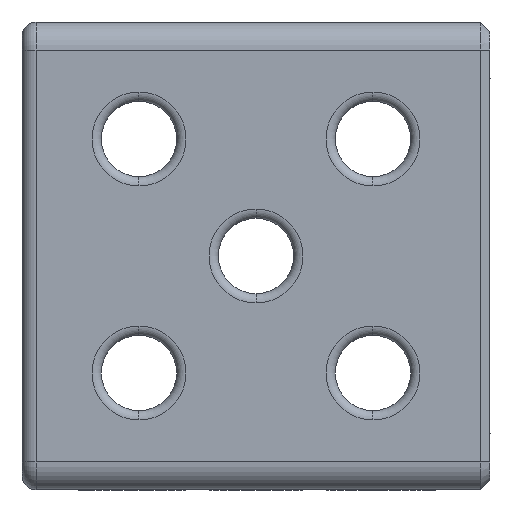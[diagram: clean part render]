
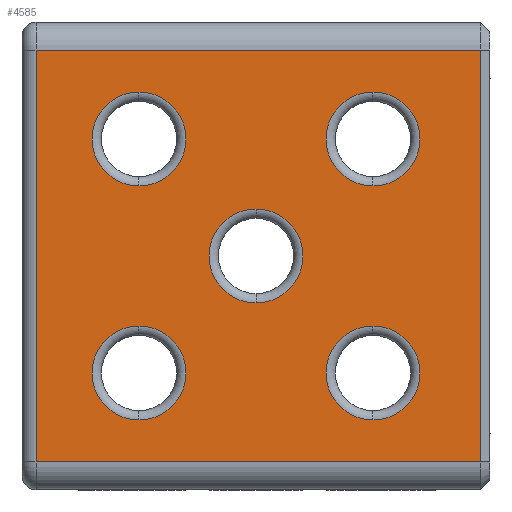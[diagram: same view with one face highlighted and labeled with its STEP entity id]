
A CAD part, left-side view. The second image highlights one B-rep face of the part: STEP entity #4585.
In plain terms, the highlighted planar face has unit normal (-1, 0, 0).
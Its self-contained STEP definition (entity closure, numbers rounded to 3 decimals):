
#45 = CIRCLE ( 'NONE', #1481, 10.04 ) ;
#543 = DIRECTION ( 'NONE',  ( 0., 0., 1. ) ) ;
#637 = VERTEX_POINT ( 'NONE', #7797 ) ;
#757 = EDGE_LOOP ( 'NONE', ( #11821, #11031 ) ) ;
#769 = CARTESIAN_POINT ( 'NONE',  ( -250., -12., 44. ) ) ;
#1057 = AXIS2_PLACEMENT_3D ( 'NONE', #5884, #15588, #7283 ) ;
#1078 = AXIS2_PLACEMENT_3D ( 'NONE', #3412, #13107, #4801 ) ;
#1367 = DIRECTION ( 'NONE',  ( 0., 0., 1. ) ) ;
#1481 = AXIS2_PLACEMENT_3D ( 'NONE', #4009, #13694, #5388 ) ;
#1667 = ORIENTED_EDGE ( 'NONE', *, *, #11466, .T. ) ;
#1727 = EDGE_CURVE ( 'NONE', #17022, #16102, #4016, .T. ) ;
#1796 = EDGE_CURVE ( 'NONE', #4720, #2927, #9651, .T. ) ;
#1896 = LINE ( 'NONE', #15461, #8833 ) ;
#1927 = CARTESIAN_POINT ( 'NONE',  ( -250., -75., 25. ) ) ;
#1997 = DIRECTION ( 'NONE',  ( -1., 0., 0. ) ) ;
#2068 = DIRECTION ( 'NONE',  ( -1., 0., 0. ) ) ;
#2155 = FACE_BOUND ( 'NONE', #10540, .T. ) ;
#2212 = EDGE_CURVE ( 'NONE', #10243, #2221, #17849, .T. ) ;
#2221 = VERTEX_POINT ( 'NONE', #7431 ) ;
#2269 = VECTOR ( 'NONE', #3454, 1000. ) ;
#2635 = CARTESIAN_POINT ( 'NONE',  ( -250., -50., 10.04 ) ) ;
#2927 = VERTEX_POINT ( 'NONE', #3922 ) ;
#3315 = DIRECTION ( 'NONE',  ( 0., 0., -1. ) ) ;
#3412 = CARTESIAN_POINT ( 'NONE',  ( -250., -75., -25. ) ) ;
#3454 = DIRECTION ( 'NONE',  ( 0., -1., 0. ) ) ;
#3495 = EDGE_CURVE ( 'NONE', #3676, #4651, #6094, .T. ) ;
#3676 = VERTEX_POINT ( 'NONE', #10775 ) ;
#3922 = CARTESIAN_POINT ( 'NONE',  ( -250., -98., -44. ) ) ;
#3960 = CARTESIAN_POINT ( 'NONE',  ( -250., -25., 25. ) ) ;
#4009 = CARTESIAN_POINT ( 'NONE',  ( -250., -25., -25. ) ) ;
#4016 = CIRCLE ( 'NONE', #8256, 10.04 ) ;
#4257 = CARTESIAN_POINT ( 'NONE',  ( -250., -25., -35.04 ) ) ;
#4389 = VERTEX_POINT ( 'NONE', #4257 ) ;
#4585 = ADVANCED_FACE ( 'NONE', ( #17751, #5832, #16877, #2155, #16461, #12784 ), #10315, .T. ) ;
#4602 = EDGE_CURVE ( 'NONE', #4651, #3676, #5407, .T. ) ;
#4651 = VERTEX_POINT ( 'NONE', #15976 ) ;
#4720 = VERTEX_POINT ( 'NONE', #11993 ) ;
#4801 = DIRECTION ( 'NONE',  ( 0., 0., 1. ) ) ;
#4886 = EDGE_CURVE ( 'NONE', #2221, #10243, #15795, .T. ) ;
#4893 = VECTOR ( 'NONE', #15791, 1000. ) ;
#4902 = CARTESIAN_POINT ( 'NONE',  ( -250., -25., -14.96 ) ) ;
#5350 = DIRECTION ( 'NONE',  ( 0., 0., -1. ) ) ;
#5388 = DIRECTION ( 'NONE',  ( 0., 0., 1. ) ) ;
#5407 = CIRCLE ( 'NONE', #16742, 10.04 ) ;
#5827 = CARTESIAN_POINT ( 'NONE',  ( -250., -75., -14.96 ) ) ;
#5832 = FACE_BOUND ( 'NONE', #13780, .T. ) ;
#5884 = CARTESIAN_POINT ( 'NONE',  ( -250., -50., 0. ) ) ;
#5943 = CARTESIAN_POINT ( 'NONE',  ( -250., -25., -25. ) ) ;
#6094 = CIRCLE ( 'NONE', #7339, 10.04 ) ;
#6176 = EDGE_LOOP ( 'NONE', ( #14268, #7006 ) ) ;
#6192 = ORIENTED_EDGE ( 'NONE', *, *, #4602, .F. ) ;
#6273 = ORIENTED_EDGE ( 'NONE', *, *, #8696, .T. ) ;
#6589 = CIRCLE ( 'NONE', #8442, 10.04 ) ;
#6878 = EDGE_CURVE ( 'NONE', #637, #4720, #8590, .T. ) ;
#7006 = ORIENTED_EDGE ( 'NONE', *, *, #4886, .F. ) ;
#7046 = CARTESIAN_POINT ( 'NONE',  ( -250., -75., 14.96 ) ) ;
#7244 = VERTEX_POINT ( 'NONE', #12517 ) ;
#7258 = EDGE_LOOP ( 'NONE', ( #8969, #15873, #11926, #14618 ) ) ;
#7283 = DIRECTION ( 'NONE',  ( 0., 0., 1. ) ) ;
#7339 = AXIS2_PLACEMENT_3D ( 'NONE', #3960, #13651, #5350 ) ;
#7342 = DIRECTION ( 'NONE',  ( 0., 0., 1. ) ) ;
#7386 = VECTOR ( 'NONE', #10484, 1000. ) ;
#7431 = CARTESIAN_POINT ( 'NONE',  ( -250., -75., 35.04 ) ) ;
#7797 = CARTESIAN_POINT ( 'NONE',  ( -250., -3., 44. ) ) ;
#7823 = LINE ( 'NONE', #769, #7386 ) ;
#8019 = CARTESIAN_POINT ( 'NONE',  ( -250., -75., 25. ) ) ;
#8172 = EDGE_CURVE ( 'NONE', #7244, #13083, #6589, .T. ) ;
#8256 = AXIS2_PLACEMENT_3D ( 'NONE', #17124, #8854, #543 ) ;
#8442 = AXIS2_PLACEMENT_3D ( 'NONE', #17963, #9682, #1367 ) ;
#8492 = AXIS2_PLACEMENT_3D ( 'NONE', #1927, #11618, #3315 ) ;
#8590 = LINE ( 'NONE', #13008, #4893 ) ;
#8696 = EDGE_CURVE ( 'NONE', #4389, #13816, #12217, .T. ) ;
#8833 = VECTOR ( 'NONE', #11351, 1000. ) ;
#8854 = DIRECTION ( 'NONE',  ( 1., 0., 0. ) ) ;
#8856 = CARTESIAN_POINT ( 'NONE',  ( -250., -12., 0. ) ) ;
#8969 = ORIENTED_EDGE ( 'NONE', *, *, #11070, .F. ) ;
#9046 = EDGE_CURVE ( 'NONE', #13816, #4389, #45, .T. ) ;
#9420 = DIRECTION ( 'NONE',  ( 0., 0., -1. ) ) ;
#9651 = LINE ( 'NONE', #10368, #2269 ) ;
#9682 = DIRECTION ( 'NONE',  ( 1., 0., 0. ) ) ;
#10243 = VERTEX_POINT ( 'NONE', #7046 ) ;
#10315 = PLANE ( 'NONE',  #15821 ) ;
#10352 = VERTEX_POINT ( 'NONE', #11423 ) ;
#10368 = CARTESIAN_POINT ( 'NONE',  ( -250., -12., -44. ) ) ;
#10371 = CARTESIAN_POINT ( 'NONE',  ( -250., -25., 25. ) ) ;
#10484 = DIRECTION ( 'NONE',  ( 0., -1., 0. ) ) ;
#10540 = EDGE_LOOP ( 'NONE', ( #17118, #6273 ) ) ;
#10687 = EDGE_LOOP ( 'NONE', ( #6192, #17839 ) ) ;
#10775 = CARTESIAN_POINT ( 'NONE',  ( -250., -25., 35.04 ) ) ;
#11031 = ORIENTED_EDGE ( 'NONE', *, *, #8172, .T. ) ;
#11070 = EDGE_CURVE ( 'NONE', #637, #10352, #7823, .T. ) ;
#11351 = DIRECTION ( 'NONE',  ( 0., 0., 1. ) ) ;
#11423 = CARTESIAN_POINT ( 'NONE',  ( -250., -98., 44. ) ) ;
#11466 = EDGE_CURVE ( 'NONE', #16102, #17022, #11930, .T. ) ;
#11618 = DIRECTION ( 'NONE',  ( -1., 0., 0. ) ) ;
#11699 = DIRECTION ( 'NONE',  ( 0., 0., 1. ) ) ;
#11750 = DIRECTION ( 'NONE',  ( 0., 0., -1. ) ) ;
#11821 = ORIENTED_EDGE ( 'NONE', *, *, #13207, .T. ) ;
#11926 = ORIENTED_EDGE ( 'NONE', *, *, #1796, .T. ) ;
#11930 = CIRCLE ( 'NONE', #1057, 10.04 ) ;
#11993 = CARTESIAN_POINT ( 'NONE',  ( -250., -3., -44. ) ) ;
#12217 = CIRCLE ( 'NONE', #13313, 10.04 ) ;
#12517 = CARTESIAN_POINT ( 'NONE',  ( -250., -75., -35.04 ) ) ;
#12784 = FACE_BOUND ( 'NONE', #10687, .T. ) ;
#12804 = ORIENTED_EDGE ( 'NONE', *, *, #1727, .T. ) ;
#13008 = CARTESIAN_POINT ( 'NONE',  ( -250., -3., 0. ) ) ;
#13083 = VERTEX_POINT ( 'NONE', #5827 ) ;
#13107 = DIRECTION ( 'NONE',  ( 1., 0., 0. ) ) ;
#13207 = EDGE_CURVE ( 'NONE', #13083, #7244, #14905, .T. ) ;
#13313 = AXIS2_PLACEMENT_3D ( 'NONE', #5943, #15642, #7342 ) ;
#13427 = CARTESIAN_POINT ( 'NONE',  ( -250., -50., -10.04 ) ) ;
#13651 = DIRECTION ( 'NONE',  ( -1., 0., 0. ) ) ;
#13694 = DIRECTION ( 'NONE',  ( 1., 0., 0. ) ) ;
#13780 = EDGE_LOOP ( 'NONE', ( #1667, #12804 ) ) ;
#13816 = VERTEX_POINT ( 'NONE', #4902 ) ;
#14268 = ORIENTED_EDGE ( 'NONE', *, *, #2212, .F. ) ;
#14618 = ORIENTED_EDGE ( 'NONE', *, *, #14691, .T. ) ;
#14691 = EDGE_CURVE ( 'NONE', #2927, #10352, #1896, .T. ) ;
#14905 = CIRCLE ( 'NONE', #1078, 10.04 ) ;
#15461 = CARTESIAN_POINT ( 'NONE',  ( -250., -98., 0. ) ) ;
#15496 = AXIS2_PLACEMENT_3D ( 'NONE', #8019, #17697, #9420 ) ;
#15588 = DIRECTION ( 'NONE',  ( 1., 0., 0. ) ) ;
#15642 = DIRECTION ( 'NONE',  ( 1., 0., 0. ) ) ;
#15791 = DIRECTION ( 'NONE',  ( 0., 0., -1. ) ) ;
#15795 = CIRCLE ( 'NONE', #15496, 10.04 ) ;
#15821 = AXIS2_PLACEMENT_3D ( 'NONE', #8856, #1997, #11699 ) ;
#15873 = ORIENTED_EDGE ( 'NONE', *, *, #6878, .T. ) ;
#15976 = CARTESIAN_POINT ( 'NONE',  ( -250., -25., 14.96 ) ) ;
#16102 = VERTEX_POINT ( 'NONE', #2635 ) ;
#16461 = FACE_BOUND ( 'NONE', #6176, .T. ) ;
#16742 = AXIS2_PLACEMENT_3D ( 'NONE', #10371, #2068, #11750 ) ;
#16877 = FACE_BOUND ( 'NONE', #757, .T. ) ;
#17022 = VERTEX_POINT ( 'NONE', #13427 ) ;
#17118 = ORIENTED_EDGE ( 'NONE', *, *, #9046, .T. ) ;
#17124 = CARTESIAN_POINT ( 'NONE',  ( -250., -50., 0. ) ) ;
#17697 = DIRECTION ( 'NONE',  ( -1., 0., 0. ) ) ;
#17751 = FACE_OUTER_BOUND ( 'NONE', #7258, .T. ) ;
#17839 = ORIENTED_EDGE ( 'NONE', *, *, #3495, .F. ) ;
#17849 = CIRCLE ( 'NONE', #8492, 10.04 ) ;
#17963 = CARTESIAN_POINT ( 'NONE',  ( -250., -75., -25. ) ) ;
